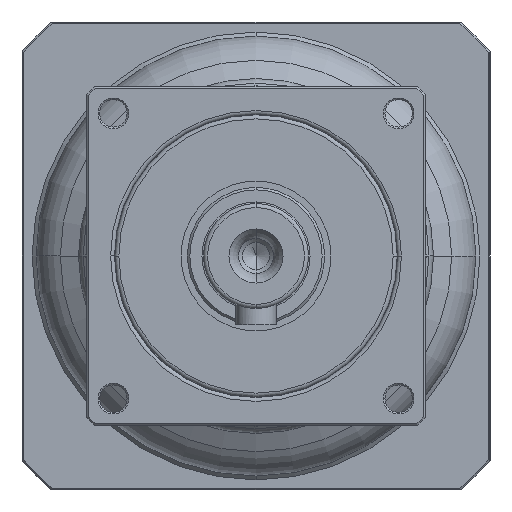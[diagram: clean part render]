
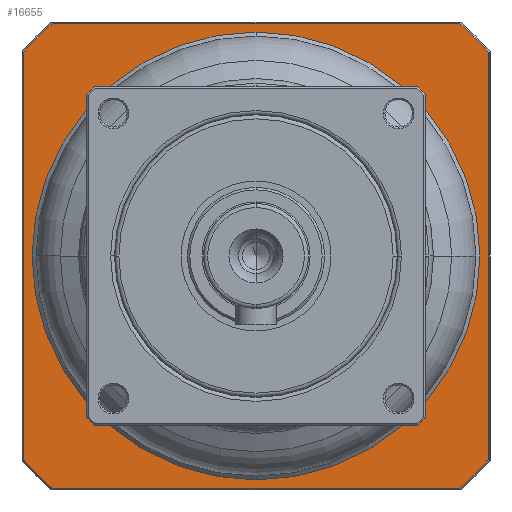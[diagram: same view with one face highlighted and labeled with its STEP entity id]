
A CAD part, left-side view. The second image highlights one B-rep face of the part: STEP entity #16655.
In plain terms, the highlighted planar face has unit normal (-1, 0, 0) as drawn and (0, 0, -1) by its records, which use the part's own axes.
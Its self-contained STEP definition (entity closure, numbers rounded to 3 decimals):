
#15420=CARTESIAN_POINT('',(0.,0.,
2.));
#15421=DIRECTION('',(0.,0.,-1.));
#15422=DIRECTION('',(0.,-1.,0.));
#15423=AXIS2_PLACEMENT_3D('',#15420,#15421,#15422);
#15425=CARTESIAN_POINT('',(0.,0.,
2.));
#15426=DIRECTION('',(0.,0.,-1.));
#15427=DIRECTION('',(0.,1.,0.));
#15428=AXIS2_PLACEMENT_3D('',#15425,#15426,#15427);
#15430=CARTESIAN_POINT('',(0.,0.,2.));
#15431=DIRECTION('',(0.,0.,1.));
#15432=DIRECTION('',(-0.752,-0.659,0.));
#15433=AXIS2_PLACEMENT_3D('',#15430,#15431,#15432);
#15435=DIRECTION('',(1.,0.,0.));
#15436=VECTOR('',#15435,50.496);
#15437=CARTESIAN_POINT('',(-25.248,-28.8,
2.));
#15438=LINE('',#15437,#15436);
#15439=CARTESIAN_POINT('',(0.,0.,2.));
#15440=DIRECTION('',(0.,0.,1.));
#15441=DIRECTION('',(0.659,-0.752,0.));
#15442=AXIS2_PLACEMENT_3D('',#15439,#15440,#15441);
#15444=DIRECTION('',(0.,1.,0.));
#15445=VECTOR('',#15444,50.496);
#15446=CARTESIAN_POINT('',(28.8,-25.248,
2.));
#15447=LINE('',#15446,#15445);
#15448=CARTESIAN_POINT('',(0.,0.,2.));
#15449=DIRECTION('',(0.,0.,1.));
#15450=DIRECTION('',(0.752,0.659,0.));
#15451=AXIS2_PLACEMENT_3D('',#15448,#15449,#15450);
#15453=DIRECTION('',(-1.,0.,0.));
#15454=VECTOR('',#15453,50.496);
#15455=CARTESIAN_POINT('',(25.248,28.8,2.));
#15456=LINE('',#15455,#15454);
#15457=CARTESIAN_POINT('',(0.,0.,2.));
#15458=DIRECTION('',(0.,0.,1.));
#15459=DIRECTION('',(-0.659,0.752,0.));
#15460=AXIS2_PLACEMENT_3D('',#15457,#15458,#15459);
#15462=DIRECTION('',(0.,-1.,0.));
#15463=VECTOR('',#15462,50.496);
#15464=CARTESIAN_POINT('',(-28.8,25.248,
2.));
#15465=LINE('',#15464,#15463);
#16302=CARTESIAN_POINT('',(0.,-27.75,2.));
#16303=CARTESIAN_POINT('',(0.,27.75,2.));
#16304=VERTEX_POINT('',#16302);
#16305=VERTEX_POINT('',#16303);
#16366=CARTESIAN_POINT('',(-28.8,-25.248,2.));
#16367=CARTESIAN_POINT('',(-25.248,-28.8,2.));
#16368=VERTEX_POINT('',#16366);
#16369=VERTEX_POINT('',#16367);
#16374=CARTESIAN_POINT('',(25.248,-28.8,
2.));
#16375=VERTEX_POINT('',#16374);
#16378=CARTESIAN_POINT('',(28.8,-25.248,2.));
#16379=VERTEX_POINT('',#16378);
#16382=CARTESIAN_POINT('',(28.8,25.248,2.));
#16383=VERTEX_POINT('',#16382);
#16386=CARTESIAN_POINT('',(25.248,28.8,2.));
#16387=VERTEX_POINT('',#16386);
#16390=CARTESIAN_POINT('',(-25.248,28.8,
2.));
#16391=VERTEX_POINT('',#16390);
#16396=CARTESIAN_POINT('',(-28.8,25.248,2.));
#16397=VERTEX_POINT('',#16396);
#16627=CARTESIAN_POINT('',(0.,0.,2.));
#16628=DIRECTION('',(0.,0.,1.));
#16629=DIRECTION('',(0.,1.,0.));
#16630=AXIS2_PLACEMENT_3D('',#16627,#16628,#16629);
#16631=PLANE('',#16630);
#16633=ORIENTED_EDGE('',*,*,#16632,.T.);
#16635=ORIENTED_EDGE('',*,*,#16634,.T.);
#16637=ORIENTED_EDGE('',*,*,#16636,.T.);
#16639=ORIENTED_EDGE('',*,*,#16638,.T.);
#16641=ORIENTED_EDGE('',*,*,#16640,.T.);
#16643=ORIENTED_EDGE('',*,*,#16642,.T.);
#16645=ORIENTED_EDGE('',*,*,#16644,.T.);
#16647=ORIENTED_EDGE('',*,*,#16646,.T.);
#16648=EDGE_LOOP('',(#16633,#16635,#16637,#16639,#16641,#16643,#16645,#16647));
#16649=FACE_OUTER_BOUND('',#16648,.F.);
#16651=ORIENTED_EDGE('',*,*,#16650,.T.);
#16652=ORIENTED_EDGE('',*,*,#16617,.T.);
#16653=EDGE_LOOP('',(#16651,#16652));
#16654=FACE_BOUND('',#16653,.F.);
#16655=ADVANCED_FACE('',(#16649,#16654),#16631,.F.);
#15424=CIRCLE('',#15423,27.75);
#15429=CIRCLE('',#15428,27.75);
#15434=CIRCLE('',#15433,38.3);
#15443=CIRCLE('',#15442,38.3);
#15452=CIRCLE('',#15451,38.3);
#15461=CIRCLE('',#15460,38.3);
#16617=EDGE_CURVE('',#16305,#16304,#15429,.T.);
#16632=EDGE_CURVE('',#16368,#16369,#15434,.T.);
#16634=EDGE_CURVE('',#16369,#16375,#15438,.T.);
#16636=EDGE_CURVE('',#16375,#16379,#15443,.T.);
#16638=EDGE_CURVE('',#16379,#16383,#15447,.T.);
#16640=EDGE_CURVE('',#16383,#16387,#15452,.T.);
#16642=EDGE_CURVE('',#16387,#16391,#15456,.T.);
#16644=EDGE_CURVE('',#16391,#16397,#15461,.T.);
#16646=EDGE_CURVE('',#16397,#16368,#15465,.T.);
#16650=EDGE_CURVE('',#16304,#16305,#15424,.T.);
